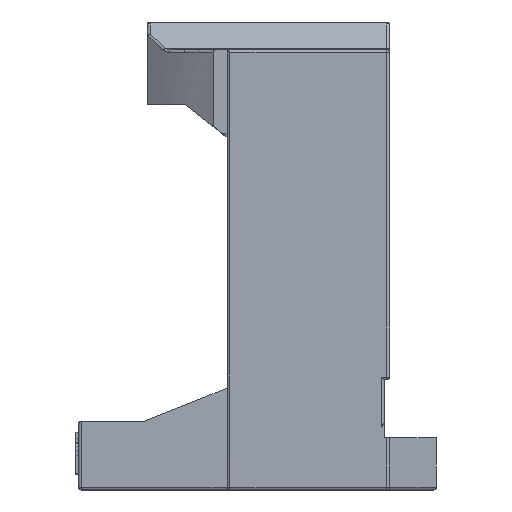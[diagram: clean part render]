
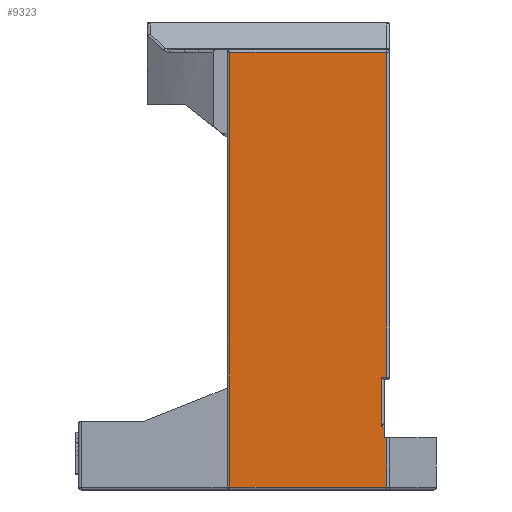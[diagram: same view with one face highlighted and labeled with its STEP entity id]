
A CAD part, left-side view. The second image highlights one B-rep face of the part: STEP entity #9323.
In plain terms, the highlighted planar face has unit normal (-1, 0, 0).
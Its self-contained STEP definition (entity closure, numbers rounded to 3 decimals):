
#373=DIRECTION('',(0.,1.,0.));
#374=VECTOR('',#373,57.);
#375=CARTESIAN_POINT('',(-75.,-47.,159.));
#376=LINE('',#375,#374);
#390=DIRECTION('',(0.,0.,-1.));
#391=VECTOR('',#390,158.);
#392=CARTESIAN_POINT('',(-75.,10.,159.));
#393=LINE('',#392,#391);
#975=DIRECTION('',(0.,-1.,0.));
#976=VECTOR('',#975,57.);
#977=CARTESIAN_POINT('',(-75.,10.,1.));
#978=LINE('',#977,#976);
#2953=DIRECTION('',(0.,-1.,0.));
#2954=VECTOR('',#2953,2.);
#2955=CARTESIAN_POINT('',(-75.,-45.,41.));
#2956=LINE('',#2955,#2954);
#2965=DIRECTION('',(0.,0.,1.));
#2966=VECTOR('',#2965,18.);
#2967=CARTESIAN_POINT('',(-75.,-45.,23.));
#2968=LINE('',#2967,#2966);
#2969=CARTESIAN_POINT('',(-75.,-45.,41.));
#2978=DIRECTION('',(0.,1.,0.));
#2979=VECTOR('',#2978,1.);
#2980=CARTESIAN_POINT('',(-75.,-46.,23.));
#2981=LINE('',#2980,#2979);
#2982=CARTESIAN_POINT('',(-75.,-45.,23.));
#2991=DIRECTION('',(0.,-1.,0.));
#2992=VECTOR('',#2991,1.);
#2993=CARTESIAN_POINT('',(-75.,-46.,19.));
#2994=LINE('',#2993,#2992);
#2995=DIRECTION('',(0.,0.,-1.));
#2996=VECTOR('',#2995,4.);
#2997=CARTESIAN_POINT('',(-75.,-46.,23.));
#2998=LINE('',#2997,#2996);
#3003=DIRECTION('',(0.,0.,1.));
#3004=VECTOR('',#3003,18.);
#3005=CARTESIAN_POINT('',(-75.,-47.,1.));
#3006=LINE('',#3005,#3004);
#3023=DIRECTION('',(0.,0.,1.));
#3024=VECTOR('',#3023,118.);
#3025=CARTESIAN_POINT('',(-75.,-47.,41.));
#3026=LINE('',#3025,#3024);
#5021=CARTESIAN_POINT('',(-75.,-46.,19.));
#5022=VERTEX_POINT('',#5021);
#5023=CARTESIAN_POINT('',(-75.,-46.,23.));
#5024=VERTEX_POINT('',#5023);
#5050=VERTEX_POINT('',#2969);
#5051=CARTESIAN_POINT('',(-75.,-47.,41.));
#5052=VERTEX_POINT('',#5051);
#5053=VERTEX_POINT('',#2982);
#5054=CARTESIAN_POINT('',(-75.,-47.,19.));
#5055=VERTEX_POINT('',#5054);
#5056=CARTESIAN_POINT('',(-75.,-47.,1.));
#5057=VERTEX_POINT('',#5056);
#5058=CARTESIAN_POINT('',(-75.,10.,1.));
#5059=VERTEX_POINT('',#5058);
#5060=CARTESIAN_POINT('',(-75.,10.,159.));
#5061=VERTEX_POINT('',#5060);
#5062=CARTESIAN_POINT('',(-75.,-47.,159.));
#5063=VERTEX_POINT('',#5062);
#9304=CARTESIAN_POINT('',(-75.,72.5,25.));
#9305=DIRECTION('',(1.,0.,0.));
#9306=DIRECTION('',(0.,-1.,0.));
#9307=AXIS2_PLACEMENT_3D('',#9304,#9305,#9306);
#9308=PLANE('',#9307);
#9309=ORIENTED_EDGE('',*,*,#6662,.T.);
#9311=ORIENTED_EDGE('',*,*,#9310,.F.);
#9312=ORIENTED_EDGE('',*,*,#6550,.F.);
#9313=ORIENTED_EDGE('',*,*,#6035,.F.);
#9314=ORIENTED_EDGE('',*,*,#6020,.F.);
#9316=ORIENTED_EDGE('',*,*,#9315,.F.);
#9317=ORIENTED_EDGE('',*,*,#9270,.F.);
#9318=ORIENTED_EDGE('',*,*,#9286,.F.);
#9319=ORIENTED_EDGE('',*,*,#9298,.F.);
#9320=ORIENTED_EDGE('',*,*,#6725,.T.);
#9321=EDGE_LOOP('',(#9309,#9311,#9312,#9313,#9314,#9316,#9317,#9318,#9319,
#9320));
#9322=FACE_OUTER_BOUND('',#9321,.F.);
#6020=EDGE_CURVE('',#5063,#5061,#376,.T.);
#6035=EDGE_CURVE('',#5061,#5059,#393,.T.);
#6550=EDGE_CURVE('',#5059,#5057,#978,.T.);
#6662=EDGE_CURVE('',#5022,#5055,#2994,.T.);
#6725=EDGE_CURVE('',#5024,#5022,#2998,.T.);
#9270=EDGE_CURVE('',#5050,#5052,#2956,.T.);
#9286=EDGE_CURVE('',#5053,#5050,#2968,.T.);
#9298=EDGE_CURVE('',#5024,#5053,#2981,.T.);
#9310=EDGE_CURVE('',#5057,#5055,#3006,.T.);
#9315=EDGE_CURVE('',#5052,#5063,#3026,.T.);
#9323=ADVANCED_FACE('',(#9322),#9308,.F.);
